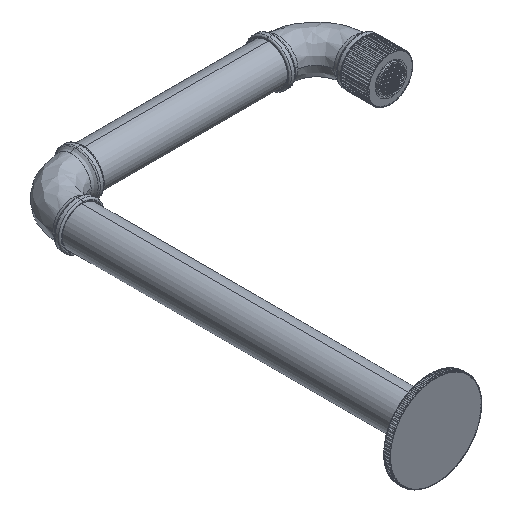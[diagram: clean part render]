
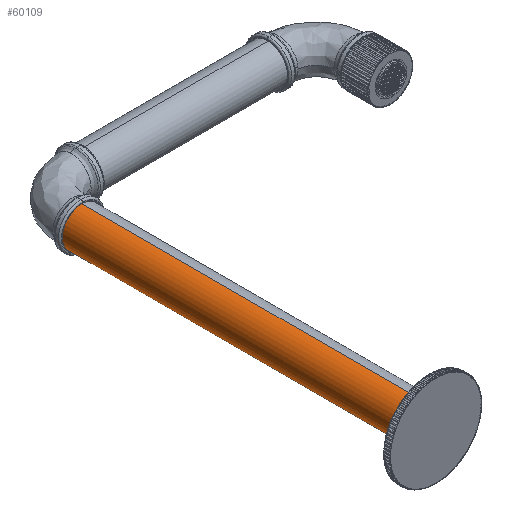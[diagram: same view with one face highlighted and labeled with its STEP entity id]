
A CAD part, isometric view. The second image highlights one B-rep face of the part: STEP entity #60109.
In plain terms, the highlighted cylindrical face has radius 12 mm (diameter 24 mm), a partial arc.
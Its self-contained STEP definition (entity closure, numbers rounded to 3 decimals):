
#1112 = EDGE_CURVE ( 'NONE', #121348, #23082, #91368, .T. ) ;
#1357 = DIRECTION ( 'NONE',  ( 0., 0., -1. ) ) ;
#4728 = CARTESIAN_POINT ( 'NONE',  ( -213.696, 184.451, 230.318 ) ) ;
#12168 = DIRECTION ( 'NONE',  ( 0., 0., -1. ) ) ;
#20934 = CYLINDRICAL_SURFACE ( 'NONE', #116252, 12. ) ;
#23082 = VERTEX_POINT ( 'NONE', #43038 ) ;
#23466 = EDGE_CURVE ( 'NONE', #61301, #23082, #24563, .T. ) ;
#23931 = CARTESIAN_POINT ( 'NONE',  ( -213.696, 173.951, 242.318 ) ) ;
#24563 = LINE ( 'NONE', #23931, #103335 ) ;
#33208 = ORIENTED_EDGE ( 'NONE', *, *, #23466, .F. ) ;
#40992 = AXIS2_PLACEMENT_3D ( 'NONE', #97461, #50096, #12168 ) ;
#43038 = CARTESIAN_POINT ( 'NONE',  ( -213.696, -32.049, 242.318 ) ) ;
#43974 = CARTESIAN_POINT ( 'NONE',  ( -213.696, 173.951, 218.318 ) ) ;
#44442 = ORIENTED_EDGE ( 'NONE', *, *, #1112, .T. ) ;
#48127 = DIRECTION ( 'NONE',  ( 0., -1., 0. ) ) ;
#50096 = DIRECTION ( 'NONE',  ( 0., 1., 0. ) ) ;
#59444 = CARTESIAN_POINT ( 'NONE',  ( -213.696, 173.951, 230.318 ) ) ;
#60049 = FACE_OUTER_BOUND ( 'NONE', #101907, .T. ) ;
#60109 = ADVANCED_FACE ( 'NONE', ( #60049 ), #20934, .T. ) ;
#61301 = VERTEX_POINT ( 'NONE', #67861 ) ;
#64311 = CARTESIAN_POINT ( 'NONE',  ( -213.696, 184.451, 218.318 ) ) ;
#67861 = CARTESIAN_POINT ( 'NONE',  ( -213.696, 184.451, 242.318 ) ) ;
#78719 = VECTOR ( 'NONE', #114636, 1000. ) ;
#79565 = EDGE_CURVE ( 'NONE', #61301, #124478, #92405, .T. ) ;
#86373 = AXIS2_PLACEMENT_3D ( 'NONE', #4728, #119033, #113316 ) ;
#89003 = ORIENTED_EDGE ( 'NONE', *, *, #98147, .T. ) ;
#91368 = CIRCLE ( 'NONE', #40992, 12. ) ;
#92405 = CIRCLE ( 'NONE', #86373, 12. ) ;
#97461 = CARTESIAN_POINT ( 'NONE',  ( -213.696, -32.049, 230.318 ) ) ;
#98147 = EDGE_CURVE ( 'NONE', #124478, #121348, #122214, .T. ) ;
#101619 = DIRECTION ( 'NONE',  ( 0., -1., 0. ) ) ;
#101907 = EDGE_LOOP ( 'NONE', ( #33208, #102837, #89003, #44442 ) ) ;
#102837 = ORIENTED_EDGE ( 'NONE', *, *, #79565, .T. ) ;
#103335 = VECTOR ( 'NONE', #101619, 1000. ) ;
#110639 = CARTESIAN_POINT ( 'NONE',  ( -213.696, -32.049, 218.318 ) ) ;
#113316 = DIRECTION ( 'NONE',  ( 0., 0., -1. ) ) ;
#114636 = DIRECTION ( 'NONE',  ( 0., -1., 0. ) ) ;
#116252 = AXIS2_PLACEMENT_3D ( 'NONE', #59444, #48127, #1357 ) ;
#119033 = DIRECTION ( 'NONE',  ( 0., -1., 0. ) ) ;
#121348 = VERTEX_POINT ( 'NONE', #110639 ) ;
#122214 = LINE ( 'NONE', #43974, #78719 ) ;
#124478 = VERTEX_POINT ( 'NONE', #64311 ) ;
